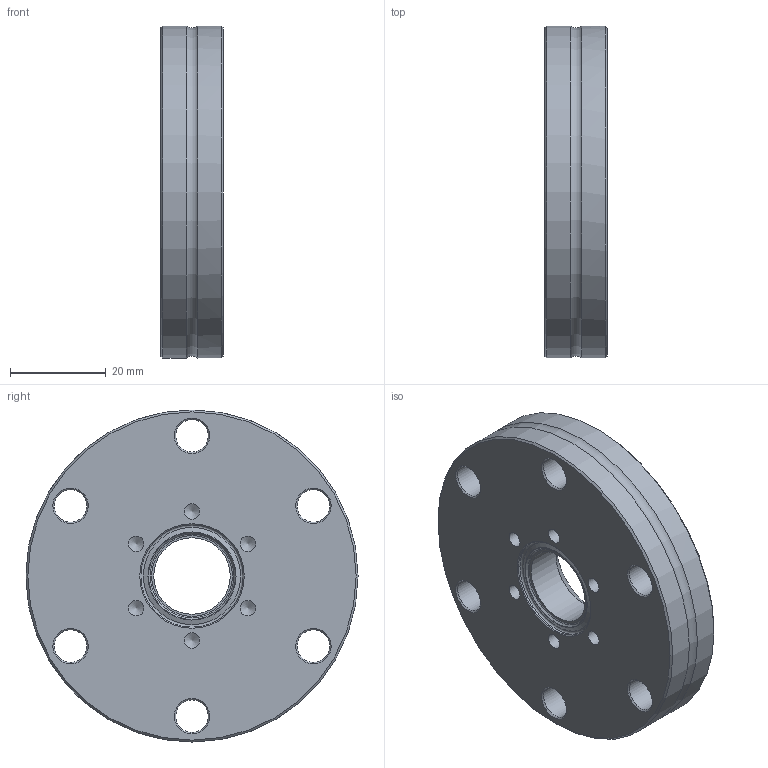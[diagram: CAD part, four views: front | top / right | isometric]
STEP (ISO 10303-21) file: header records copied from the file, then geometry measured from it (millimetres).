
FILE_DESCRIPTION((''),'2;1');
FILE_NAME('W:\13785_CF_Global_Fit_Umsetzung\097_Reducing_Flange\M213-071.stp','2010-09-01T12:51:36',('KAA'),(''),'Autodesk Inventor 2011','Autodesk Inventor 2011','');
FILE_SCHEMA(('AUTOMOTIVE_DESIGN { 1 0 10303 214 1 1 1 1 }'));
Length unit declared in the file: millimetre
Products named in the file (1): 213-071
Bounding box: 13 x 69.5 x 69.5 mm (x, y, z)
Volume: 40737.7 mm3; surface area: 12400.1 mm2
Topology: 1 solids, 1 shells, 58 faces, 135 edges, 81 vertices
Faces by surface type: cone 30, cylinder 16, torus 7, plane 5
Full cylindrical faces by diameter (mm): 3.242 x6, 6.8 x6, 16 x1, 69.5 x2
Entity records: 1354 total; most frequent: DIRECTION 246, CARTESIAN_POINT 234, ORIENTED_EDGE 144, EDGE_LOOP 124, AXIS2_PLACEMENT_3D 122, EDGE_CURVE 72, VERTEX_POINT 68, FACE_BOUND 66
